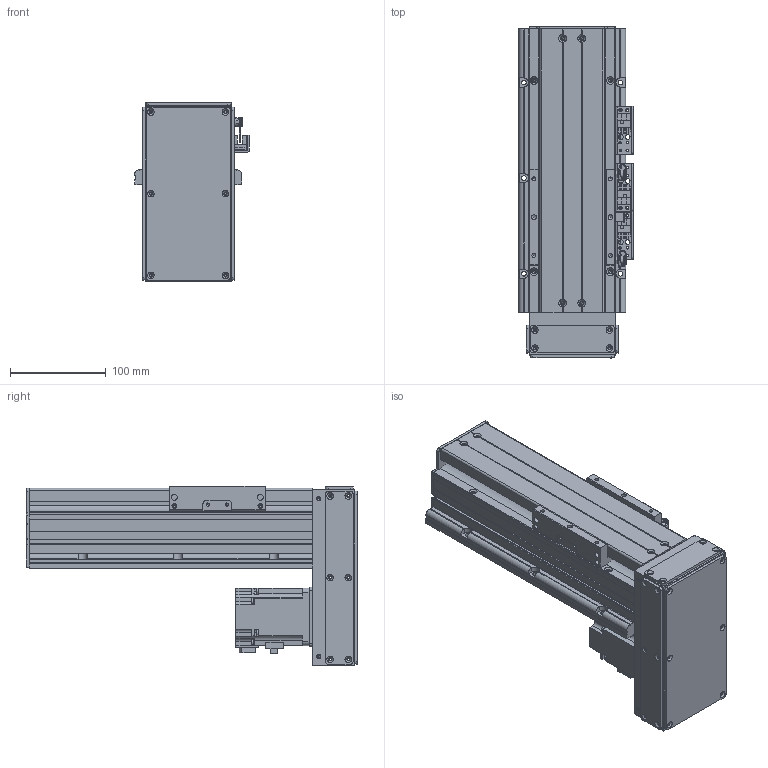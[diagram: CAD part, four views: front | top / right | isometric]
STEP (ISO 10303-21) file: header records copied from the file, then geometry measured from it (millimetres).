
FILE_DESCRIPTION(/* description */ ('MANUFACTURE','CAx-IF Rec.Pracs.---Representation and Presentation of Product Manufacturing Information (PMI)---4.0---2014-10-13'),/* implementation_level */ '2;1');
FILE_NAME(/* name */ '\\192.168.0.160\disk1\HAN SHIN Master\B-설계부문\C-표준\B-2024년\BC02-표준도면\+로봇 개선표준도면\표준 승인도 폴더 - 재작업\3D\HS Type\HS90 - 1RAIL\D - Type\HS90-D20-N1B-0100-R10.stp',/* time_stamp */ '2024-08-26T15:04:07+09:00',/* author */ ('user'),/* organization */ (''),/* preprocessor_version */ 'ST-DEVELOPER v18.1',/* originating_system */ 'Autodesk Inventor 2022',/* authorisation */ 'LIP');
FILE_SCHEMA (('AP242_MANAGED_MODEL_BASED_3D_ENGINEERING_MIM_LF { 1 0 10303 442 1 1 4 }'));
Length unit declared in the file: millimetre
Products named in the file (25): HS90-D20-N1B-0700-R10 (간소화); BASE; UPCOVER; SIDE COVER; HS90 SIDE COVER - 200W 1BLOCK-MIRROR; HR90 FRONT BLOCK; HR90 REAR BLOCK TENSION; S 20R_BLOCK; REAR COVER; STOPPER3; HR120 SENSOR DOG; hg-kr23_; hsr_ftht_A-M6F_grease_nipple_joint; NIPPLE CAP(신규); STOPPER104; MOTOR PLATE-200W(MITSUBISHI); LMKE1520 NUT; HS90 TABLE-SR20W; HS90-D MOTOR PLATE; HS90 D- BELT COVER; HG90DACRYLCOVER001; HG90DACRYLCOVER003; HG90DACRYLCOVER002; SENSOR BRK(EE-SX674A); EE_SX674A
Assembly tree (32 placements, depth 2):
  HS90-D20-N1B-0700-R10 (간소화)
    BASE
    UPCOVER
    SIDE COVER
    HS90 SIDE COVER - 200W 1BLOCK-MIRROR
    HR90 FRONT BLOCK
    HR90 REAR BLOCK TENSION
    S 20R_BLOCK
    REAR COVER
    STOPPER3
    HR120 SENSOR DOG
    SENSOR BRK(EE-SX674A)  x3
    EE_SX674A  x3
    hsr_ftht_A-M6F_grease_nipple_joint  x2
    NIPPLE CAP(신규)  x2
    hg-kr23_
    STOPPER104  x2
    MOTOR PLATE-200W(MITSUBISHI)
    LMKE1520 NUT
    HS90 TABLE-SR20W
    HS90-D MOTOR PLATE
    HS90 D- BELT COVER
    HG90DACRYLCOVER001
    HG90DACRYLCOVER002  x2
    HG90DACRYLCOVER003
Bounding box: 120 x 347 x 187.5 mm (x, y, z)
Volume: 1672808.2 mm3; surface area: 594854.4 mm2
Topology: 32 solids, 32 shells, 1830 faces, 4986 edges, 3269 vertices
Faces by surface type: plane 957, cylinder 671, cone 166, sphere 16, torus 12, bspline 8
Full cylindrical faces by diameter (mm): 2.459 x50, 3 x4, 3.242 x48, 3.4 x22, 3.5 x6, 4.134 x40, 4.5 x35, 4.917 x11, 5 x26, 5.5 x13, 5.6 x10, 5.7 x4, 5.8 x4, 5.9 x8, 6 x12, 6.2 x4, 6.5 x4, 8 x5, 9.5 x13, 14 x1, 15 x2, 17 x1, 20 x1, 25 x2, 28 x1, 32 x2, 33.7 x1, 34 x1, 50 x2
Entity records: 57473 total; most frequent: CARTESIAN_POINT 11668, DIRECTION 9159, ORIENTED_EDGE 8294, EDGE_CURVE 4147, AXIS2_PLACEMENT_3D 3300, VERTEX_POINT 2764, LINE 2559, VECTOR 2559
